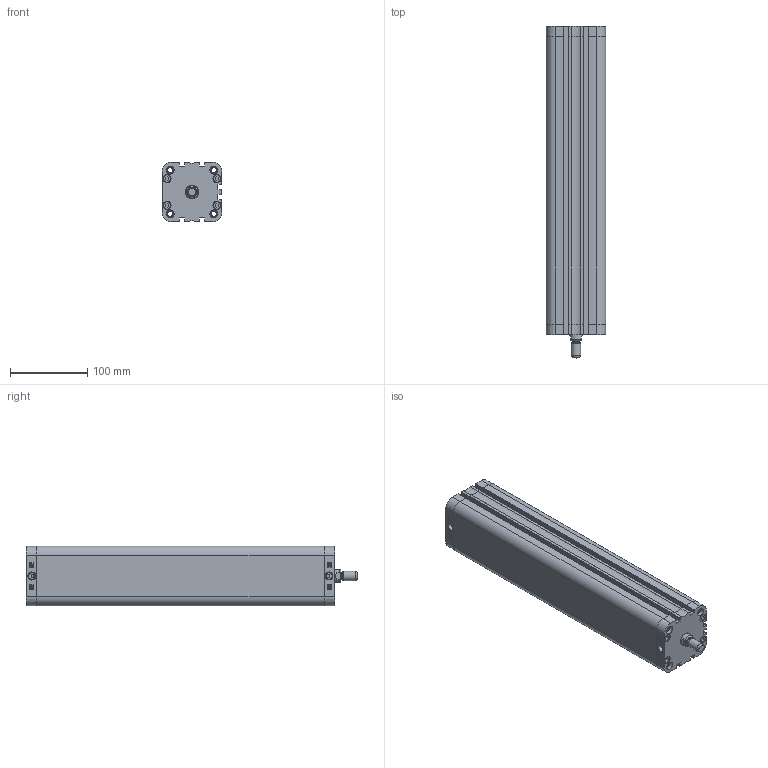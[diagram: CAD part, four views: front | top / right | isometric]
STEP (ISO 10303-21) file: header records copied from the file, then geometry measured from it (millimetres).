
FILE_DESCRIPTION((''),'2;1');
FILE_NAME('T:\Archivio Inventor\- CATALOGHI 2012\SERIE P - NUOVA\PDM\PDM063\PDM063.---.GS.M\PDM063.350.GS.M.stp','2013-02-04T09:33:37',('Administrator'),(''),'Autodesk Inventor 2012','Autodesk Inventor 2012','');
FILE_SCHEMA(('CONFIG_CONTROL_DESIGN'));
Length unit declared in the file: millimetre
Products named in the file (1): PDM063.350.GS.M
Bounding box: 77 x 429 x 77 mm (x, y, z)
Volume: 823818.6 mm3; surface area: 326862 mm2
Topology: 1 solids, 5 shells, 824 faces, 1993 edges, 1252 vertices
Faces by surface type: plane 346, bspline 218, cylinder 142, torus 55, cone 45, sphere 18
Full cylindrical faces by diameter (mm): 4 x2, 6.3 x4, 6.647 x8, 8.047 x4, 8.566 x2, 9.8 x8, 10 x1, 10.3 x8, 10.5 x8, 12 x2, 16 x1, 16.5 x1, 63 x1, 65.4 x1, 65.6 x1
Entity records: 27370 total; most frequent: CARTESIAN_POINT 9124, ORIENTED_EDGE 3744, DIRECTION 3031, EDGE_CURVE 1872, VERTEX_POINT 1231, AXIS2_PLACEMENT_3D 1026, EDGE_LOOP 1003, VECTOR 979
